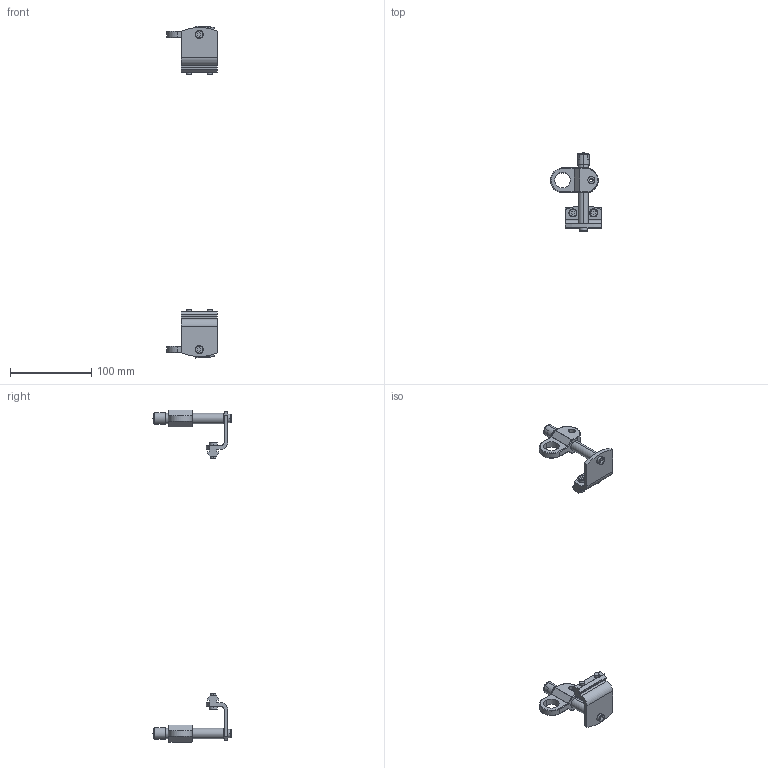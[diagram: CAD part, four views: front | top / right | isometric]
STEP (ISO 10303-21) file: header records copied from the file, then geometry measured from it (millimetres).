
FILE_DESCRIPTION((''),'2;1');
FILE_NAME('75M-PM_ASM','2016-10-17T',('jenni.wallner'),(''),'PRO/ENGINEER BY PARAMETRIC TECHNOLOGY CORPORATION, 2012420','PRO/ENGINEER BY PARAMETRIC TECHNOLOGY CORPORATION, 2012420','');
FILE_SCHEMA(('CONFIG_CONTROL_DESIGN'));
Length unit declared in the file: inch
Products named in the file (3): BRACKET_2; THROUGH_BEAM; 75M-PM_ASM
Assembly tree (4 placements, depth 2):
  75M-PM_ASM
    BRACKET_2  x2
    THROUGH_BEAM  x2
Bounding box: 62.3 x 96.38 x 407.79 mm (x, y, z)
Volume: 83797.2 mm3; surface area: 41727.9 mm2
Topology: 4 solids, 8 shells, 378 faces, 886 edges, 552 vertices
Faces by surface type: plane 152, cylinder 150, cone 40, bspline 20, torus 12, sphere 4
Entity records: 6229 total; most frequent: CARTESIAN_POINT 1783, DIRECTION 933, ORIENTED_EDGE 878, EDGE_CURVE 439, AXIS2_PLACEMENT_3D 348, VERTEX_POINT 276, VECTOR 237, LINE 237
